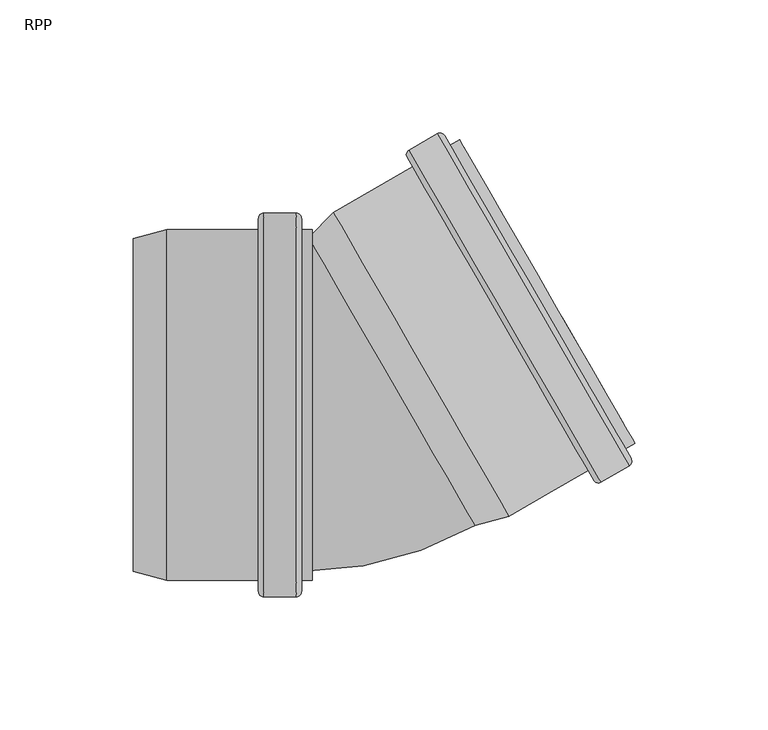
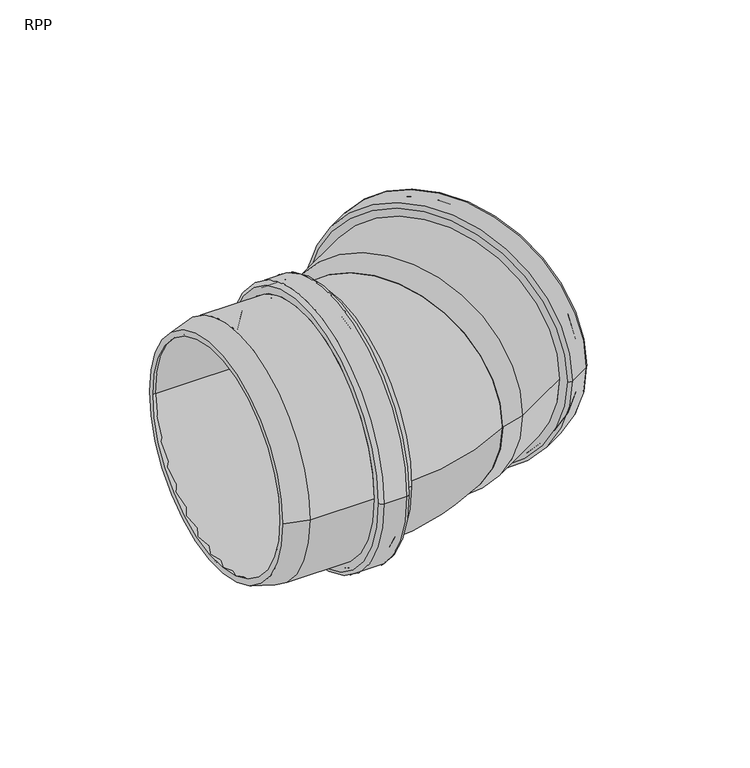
"""IFC4 building model written with IfcOpenShell, lengths in millimetres: pipe fitting geometry, RAUPIANO PLUS Bend : RPP."""

from ifc_helpers import new_model, si_unit, point, frame, origin, place, context, project, spatial, polyline, circle_curve, ellipse_curve, trimmed, source, transform, mapped, element, save
from ifc_brep_helpers import plane_surface, cylinder_surface, revolved_surface, advanced_brep


def rpp_f37a2bfc(model_context):
    return source(origin(), model_context, "Body", "AdvancedBrep", [
        advanced_brep(
        [(-31.6186213, -62.8, 0.0), (-31.6186213, 62.8, 0.0), (-68.7215258, 62.8, 0.0), (-68.7215258, -62.8, 0.0), (-31.1186213, -69.0, 0.0), (-31.1186213, 69.0, 0.0), (-31.6186213, 68.5, 0.0), (-31.6186213, -68.5, 0.0), (-22.1186213, -69.0, 0.0), (-22.1186213, 69.0, 0.0), (-21.6186213, -68.5, 0.0), (-21.6186213, 68.5, 0.0), (-14.4186213, -62.8, 0.0), (-14.4186213, 62.8, 0.0), (-21.6186213, 62.8, 0.0), (-21.6186213, -62.8, 0.0), (-18.5186213, -65.9, 0.0), (-18.5186213, 65.9, 0.0), (-14.4186213, 65.9, 0.0), (-14.4186213, -65.9, 0.0), (-20.5186213, -72.1, 0.0), (-20.5186213, 72.1, 0.0), (-18.5186213, 70.1, 0.0), (-18.5186213, -70.1, 0.0), (-32.7186213, -72.1, 0.0), (-32.7186213, 72.1, 0.0), (-34.7186213, -70.1, 0.0), (-34.7186213, 70.1, 0.0), (-69.1296486, -65.9, 0.0), (-69.1296486, 65.9, 0.0), (-34.7186213, 65.9, 0.0), (-34.7186213, -65.9, 0.0), (-81.8186213, -62.5, 0.0), (-81.8186213, 62.5, 0.0), (-81.8186213, 59.2906438, 0.0), (-81.8186213, -59.2906438, 0.0)],
        [
            (0, 1, circle_curve(frame((-31.6186213, 0.0, 0.0), z_axis=(1.0, 0.0, 0.0), x_axis=(0.0, 1.0, 0.0)), 62.8)),
            (1, 2),
            (2, 3, circle_curve(frame((-68.7215258, 0.0, 0.0), z_axis=(-1.0, 0.0, 0.0), x_axis=(0.0, 1.0, 0.0)), 62.8)),
            (3, 0),
            (4, 5, circle_curve(frame((-31.1186213, 0.0, 0.0), z_axis=(1.0, 0.0, 0.0), x_axis=(0.0, 1.0, 0.0)), 69.0)),
            (5, 6, circle_curve(frame((-31.1186213, 68.5, 0.0), z_axis=(0.0, 0.0, 1.0), x_axis=(0.0, -1.0, 0.0)), 0.5)),
            (6, 7, circle_curve(frame((-31.6186213, 0.0, 0.0), z_axis=(-1.0, 0.0, 0.0), x_axis=(0.0, 1.0, 0.0)), 68.5)),
            (7, 4, circle_curve(frame((-31.1186213, -68.5, 0.0), z_axis=(0.0, 0.0, 1.0), x_axis=(0.0, 1.0, 0.0)), 0.5)),
            (8, 9, circle_curve(frame((-22.1186213, 0.0, 0.0), z_axis=(1.0, 0.0, 0.0), x_axis=(0.0, 1.0, 0.0)), 69.0)),
            (9, 5),
            (4, 8),
            (10, 11, circle_curve(frame((-21.6186213, 0.0, 0.0), z_axis=(1.0, 0.0, 0.0), x_axis=(0.0, 1.0, 0.0)), 68.5)),
            (11, 9, circle_curve(frame((-22.1186213, 68.5, 0.0), z_axis=(0.0, 0.0, 1.0), x_axis=(0.0, -1.0, 0.0)), 0.5)),
            (8, 10, circle_curve(frame((-22.1186213, -68.5, 0.0), z_axis=(0.0, 0.0, 1.0), x_axis=(0.0, 1.0, 0.0)), 0.5)),
            (12, 13, circle_curve(frame((-14.4186213, 0.0, 0.0), z_axis=(1.0, 0.0, 0.0), x_axis=(0.0, 1.0, 0.0)), 62.8)),
            (13, 14),
            (14, 15, circle_curve(frame((-21.6186213, 0.0, 0.0), z_axis=(-1.0, 0.0, 0.0), x_axis=(0.0, 1.0, 0.0)), 62.8)),
            (15, 12),
            (16, 17, circle_curve(frame((-18.5186213, 0.0, 0.0), z_axis=(1.0, 0.0, 0.0), x_axis=(0.0, 1.0, 0.0)), 65.9)),
            (17, 18),
            (18, 19, circle_curve(frame((-14.4186213, 0.0, 0.0), z_axis=(-1.0, 0.0, 0.0), x_axis=(0.0, 1.0, 0.0)), 65.9)),
            (19, 16),
            (20, 21, circle_curve(frame((-20.5186213, 0.0, 0.0), z_axis=(1.0, 0.0, 0.0), x_axis=(0.0, 1.0, 0.0)), 72.1)),
            (21, 22, circle_curve(frame((-20.5186213, 70.1, 0.0), z_axis=(0.0, 0.0, -1.0), x_axis=(0.0, -1.0, 0.0)), 2.0)),
            (22, 23, circle_curve(frame((-18.5186213, 0.0, 0.0), z_axis=(-1.0, 0.0, 0.0), x_axis=(0.0, 1.0, 0.0)), 70.1)),
            (23, 20, circle_curve(frame((-20.5186213, -70.1, 0.0), z_axis=(0.0, 0.0, -1.0), x_axis=(0.0, 1.0, 0.0)), 2.0)),
            (24, 25, circle_curve(frame((-32.7186213, 0.0, 0.0), z_axis=(1.0, 0.0, 0.0), x_axis=(0.0, 1.0, 0.0)), 72.1)),
            (25, 21),
            (20, 24),
            (26, 27, circle_curve(frame((-34.7186213, 0.0, 0.0), z_axis=(1.0, 0.0, 0.0), x_axis=(0.0, 1.0, 0.0)), 70.1)),
            (27, 25, circle_curve(frame((-32.7186213, 70.1, 0.0), z_axis=(0.0, 0.0, -1.0), x_axis=(0.0, -1.0, 0.0)), 2.0)),
            (24, 26, circle_curve(frame((-32.7186213, -70.1, 0.0), z_axis=(0.0, 0.0, -1.0), x_axis=(0.0, 1.0, 0.0)), 2.0)),
            (28, 29, circle_curve(frame((-69.1296486, 0.0, 0.0), z_axis=(1.0, 0.0, 0.0), x_axis=(0.0, 1.0, 0.0)), 65.9)),
            (29, 30),
            (30, 31, circle_curve(frame((-34.7186213, 0.0, 0.0), z_axis=(-1.0, 0.0, 0.0), x_axis=(0.0, 1.0, 0.0)), 65.9)),
            (31, 28),
            (32, 33, circle_curve(frame((-81.8186213, 0.0, 0.0), z_axis=(1.0, 0.0, 0.0), x_axis=(0.0, 1.0, 0.0)), 62.5)),
            (33, 29),
            (28, 32),
            (2, 34),
            (34, 35, circle_curve(frame((-81.8186213, 0.0, 0.0), z_axis=(-1.0, 0.0, 0.0), x_axis=(0.0, 1.0, 0.0)), 59.2906438)),
            (35, 3),
            (1, 0, circle_curve(frame((-31.6186213, 0.0, 0.0), z_axis=(1.0, 0.0, 0.0), x_axis=(0.0, -1.0, 0.0)), 62.8)),
            (3, 2, circle_curve(frame((-68.7215258, 0.0, 0.0), z_axis=(-1.0, 0.0, 0.0), x_axis=(0.0, -1.0, 0.0)), 62.8)),
            (6, 7, circle_curve(frame((-31.6186213, 0.0, 0.0), z_axis=(1.0, 0.0, 0.0), x_axis=(0.0, -1.0, 0.0)), 68.5)),
            (5, 4, circle_curve(frame((-31.1186213, 0.0, 0.0), z_axis=(1.0, 0.0, 0.0), x_axis=(0.0, -1.0, 0.0)), 69.0)),
            (9, 8, circle_curve(frame((-22.1186213, 0.0, 0.0), z_axis=(1.0, 0.0, 0.0), x_axis=(0.0, -1.0, 0.0)), 69.0)),
            (11, 10, circle_curve(frame((-21.6186213, 0.0, 0.0), z_axis=(1.0, 0.0, 0.0), x_axis=(0.0, -1.0, 0.0)), 68.5)),
            (14, 15, circle_curve(frame((-21.6186213, 0.0, 0.0), z_axis=(1.0, 0.0, 0.0), x_axis=(0.0, -1.0, 0.0)), 62.8)),
            (13, 12, circle_curve(frame((-14.4186213, 0.0, 0.0), z_axis=(1.0, 0.0, 0.0), x_axis=(0.0, -1.0, 0.0)), 62.8)),
            (18, 19, circle_curve(frame((-14.4186213, 0.0, 0.0), z_axis=(1.0, 0.0, 0.0), x_axis=(0.0, -1.0, 0.0)), 65.9)),
            (17, 16, circle_curve(frame((-18.5186213, 0.0, 0.0), z_axis=(1.0, 0.0, 0.0), x_axis=(0.0, -1.0, 0.0)), 65.9)),
            (22, 23, circle_curve(frame((-18.5186213, 0.0, 0.0), z_axis=(1.0, 0.0, 0.0), x_axis=(0.0, -1.0, 0.0)), 70.1)),
            (21, 20, circle_curve(frame((-20.5186213, 0.0, 0.0), z_axis=(1.0, 0.0, 0.0), x_axis=(0.0, -1.0, 0.0)), 72.1)),
            (25, 24, circle_curve(frame((-32.7186213, 0.0, 0.0), z_axis=(1.0, 0.0, 0.0), x_axis=(0.0, -1.0, 0.0)), 72.1)),
            (27, 26, circle_curve(frame((-34.7186213, 0.0, 0.0), z_axis=(1.0, 0.0, 0.0), x_axis=(0.0, -1.0, 0.0)), 70.1)),
            (30, 31, circle_curve(frame((-34.7186213, 0.0, 0.0), z_axis=(1.0, 0.0, 0.0), x_axis=(0.0, -1.0, 0.0)), 65.9)),
            (29, 28, circle_curve(frame((-69.1296486, 0.0, 0.0), z_axis=(1.0, 0.0, 0.0), x_axis=(0.0, -1.0, 0.0)), 65.9)),
            (33, 32, circle_curve(frame((-81.8186213, 0.0, 0.0), z_axis=(1.0, 0.0, 0.0), x_axis=(0.0, -1.0, 0.0)), 62.5)),
            (34, 35, circle_curve(frame((-81.8186213, 0.0, 0.0), z_axis=(1.0, 0.0, 0.0), x_axis=(0.0, -1.0, 0.0)), 59.2906438)),
        ],
        [
            revolved_surface(polyline([(-68.7215258, 62.8, 0.0), (-31.6186213, 62.8, 0.0)]), (-81.8186213, 0.0, 0.0), (-1.0, 0.0, 0.0)),
            revolved_surface(trimmed(ellipse_curve(frame((-31.1186213, 68.5, 0.0), z_axis=(0.0, 0.0, -1.0), x_axis=(0.0, -1.0, 0.0)), 0.5, 0.5), [point((-31.6186213, 68.5, 0.0))], [point((-31.1186213, 69.0, 0.0))], True, "CARTESIAN"), (-81.8186213, 0.0, 0.0), (-1.0, 0.0, 0.0)),
            revolved_surface(polyline([(-31.1186213, 69.0, 0.0), (-22.1186213, 69.0, 0.0)]), (-81.8186213, 0.0, 0.0), (-1.0, 0.0, 0.0)),
            revolved_surface(trimmed(ellipse_curve(frame((-22.1186213, 68.5, 0.0), z_axis=(0.0, 0.0, -1.0), x_axis=(0.0, -1.0, 0.0)), 0.5, 0.5), [point((-22.1186213, 69.0, 0.0))], [point((-21.6186213, 68.5, 0.0))], True, "CARTESIAN"), (-81.8186213, 0.0, 0.0), (-1.0, 0.0, 0.0)),
            revolved_surface(polyline([(-21.6186213, 62.8, 0.0), (-14.418621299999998, 62.8, 0.0)]), (-81.8186213, 0.0, 0.0), (-1.0, 0.0, 0.0)),
            cylinder_surface(frame((-81.8186213, 0.0, 0.0), z_axis=(-1.0, 0.0, 0.0), x_axis=(0.0, 1.0, 0.0)), 65.9),
            revolved_surface(trimmed(ellipse_curve(frame((-20.5186213, 70.1, 0.0), z_axis=(0.0, 0.0, 1.0), x_axis=(0.0, -1.0, 0.0)), 2.0, 2.0), [point((-18.5186213, 70.1, 0.0))], [point((-20.5186213, 72.1, 0.0))], True, "CARTESIAN"), (-81.8186213, 0.0, 0.0), (-1.0, 0.0, 0.0)),
            cylinder_surface(frame((-81.8186213, 0.0, 0.0), z_axis=(-1.0, 0.0, 0.0), x_axis=(0.0, 1.0, 0.0)), 72.1),
            revolved_surface(trimmed(ellipse_curve(frame((-32.7186213, 70.1, 0.0), z_axis=(0.0, 0.0, 1.0), x_axis=(0.0, -1.0, 0.0)), 2.0, 2.0), [point((-32.7186213, 72.1, 0.0))], [point((-34.7186213, 70.1, 0.0))], True, "CARTESIAN"), (-81.8186213, 0.0, 0.0), (-1.0, 0.0, 0.0)),
            revolved_surface(polyline([(-69.1296486, 65.9, 0.0), (-81.8186213, 62.5, 0.0)]), (-81.8186213, 0.0, 0.0), (-1.0, 0.0, 0.0)),
            revolved_surface(polyline([(-81.8186213, 59.2906438, 0.0), (-68.7215258, 62.8, 0.0)]), (-81.8186213, 0.0, 0.0), (-1.0, 0.0, 0.0)),
            revolved_surface(polyline([(-68.7215258, -62.8, 0.0), (-31.6186213, -62.8, 0.0)]), (-81.8186213, 0.0, 0.0), (-1.0, 0.0, 0.0)),
            plane_surface(frame((-31.6186213, 0.0, 0.0), z_axis=(1.0, 0.0, 0.0), x_axis=(0.0, -1.0, 0.0))),
            revolved_surface(trimmed(ellipse_curve(frame((-31.1186213, -68.5, 0.0), z_axis=(0.0, 0.0, 1.0), x_axis=(0.0, 1.0, 0.0)), 0.5, 0.5), [point((-31.6186213, -68.5, 0.0))], [point((-31.1186213, -69.0, 0.0))], True, "CARTESIAN"), (-81.8186213, 0.0, 0.0), (-1.0, 0.0, 0.0)),
            revolved_surface(polyline([(-31.1186213, -69.0, 0.0), (-22.1186213, -69.0, 0.0)]), (-81.8186213, 0.0, 0.0), (-1.0, 0.0, 0.0)),
            revolved_surface(trimmed(ellipse_curve(frame((-22.1186213, -68.5, 0.0), z_axis=(0.0, 0.0, 1.0), x_axis=(0.0, 1.0, 0.0)), 0.5, 0.5), [point((-22.1186213, -69.0, 0.0))], [point((-21.6186213, -68.5, 0.0))], True, "CARTESIAN"), (-81.8186213, 0.0, 0.0), (-1.0, 0.0, 0.0)),
            plane_surface(frame((-21.6186213, 0.0, 0.0), z_axis=(-1.0, 0.0, 0.0), x_axis=(0.0, -1.0, 0.0))),
            revolved_surface(polyline([(-21.6186213, -62.8, 0.0), (-14.418621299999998, -62.8, 0.0)]), (-81.8186213, 0.0, 0.0), (-1.0, 0.0, 0.0)),
            plane_surface(frame((-14.4186213, 0.0, 0.0), z_axis=(1.0, 0.0, 0.0), x_axis=(0.0, -1.0, 0.0))),
            cylinder_surface(frame((-81.8186213, 0.0, 0.0), z_axis=(-1.0, 0.0, 0.0), x_axis=(0.0, -1.0, 0.0)), 65.9),
            plane_surface(frame((-18.5186213, 0.0, 0.0), z_axis=(1.0, 0.0, 0.0), x_axis=(0.0, -1.0, 0.0))),
            revolved_surface(trimmed(ellipse_curve(frame((-20.5186213, -70.1, 0.0), z_axis=(0.0, 0.0, -1.0), x_axis=(0.0, 1.0, 0.0)), 2.0, 2.0), [point((-18.5186213, -70.1, 0.0))], [point((-20.5186213, -72.1, 0.0))], True, "CARTESIAN"), (-81.8186213, 0.0, 0.0), (-1.0, 0.0, 0.0)),
            cylinder_surface(frame((-81.8186213, 0.0, 0.0), z_axis=(-1.0, 0.0, 0.0), x_axis=(0.0, -1.0, 0.0)), 72.1),
            revolved_surface(trimmed(ellipse_curve(frame((-32.7186213, -70.1, 0.0), z_axis=(0.0, 0.0, -1.0), x_axis=(0.0, 1.0, 0.0)), 2.0, 2.0), [point((-32.7186213, -72.1, 0.0))], [point((-34.7186213, -70.1, 0.0))], True, "CARTESIAN"), (-81.8186213, 0.0, 0.0), (-1.0, 0.0, 0.0)),
            plane_surface(frame((-34.7186213, 0.0, 0.0), z_axis=(-1.0, 0.0, 0.0), x_axis=(0.0, -1.0, 0.0))),
            revolved_surface(polyline([(-69.1296486, -65.9, 0.0), (-81.8186213, -62.5, 0.0)]), (-81.8186213, 0.0, 0.0), (-1.0, 0.0, 0.0)),
            plane_surface(frame((-81.8186213, 0.0, 0.0), z_axis=(-1.0, 0.0, 0.0), x_axis=(0.0, -1.0, 0.0))),
            revolved_surface(polyline([(-81.8186213, -59.2906438, 0.0), (-68.7215258, -62.8, 0.0)]), (-81.8186213, 0.0, 0.0), (-1.0, 0.0, 0.0)),
        ],
        [
            (0, [[1, 2, 3, 4]]),
            (1, [[5, 6, 7, 8]]),
            (2, [[9, 10, -5, 11]]),
            (3, [[12, 13, -9, 14]]),
            (4, [[15, 16, 17, 18]]),
            (5, [[19, 20, 21, 22]]),
            (6, [[23, 24, 25, 26]]),
            (7, [[27, 28, -23, 29]]),
            (8, [[30, 31, -27, 32]]),
            (5, [[33, 34, 35, 36]]),
            (9, [[37, 38, -33, 39]]),
            (10, [[-3, 40, 41, 42]]),
            (11, [[43, -4, 44, -2]]),
            (12, [[45, -7], [-43, -1]]),
            (13, [[46, -8, -45, -6]]),
            (14, [[47, -11, -46, -10]]),
            (15, [[48, -14, -47, -13]]),
            (16, [[-48, -12], [49, -17]]),
            (17, [[50, -18, -49, -16]]),
            (18, [[51, -21], [-50, -15]]),
            (19, [[52, -22, -51, -20]]),
            (20, [[53, -25], [-52, -19]]),
            (21, [[54, -26, -53, -24]]),
            (22, [[55, -29, -54, -28]]),
            (23, [[56, -32, -55, -31]]),
            (24, [[-56, -30], [57, -35]]),
            (19, [[58, -36, -57, -34]]),
            (25, [[59, -39, -58, -38]]),
            (26, [[-59, -37], [60, -41]]),
            (27, [[-44, -42, -60, -40]]),
        ],
    ),
        advanced_brep(
        [(45.0767006, -42.4378931, 0.0), (-14.2139432, 60.2565144, 0.0), (-4.6262039, 69.8442538, 0.0), (58.1737961, -38.928537, 0.0), (59.3703514, -41.8172771, 0.0), (-6.5296486, 72.3248711, 0.0), (-15.8186213, 63.0358984, 0.0), (46.6813787, -45.2172771, 0.0), (89.1711752, -24.6117635, 0.0), (23.2711752, 89.5303848, 0.0), (104.568736, -22.881121, 0.0), (32.468736, 101.9997423, 0.0), (21.903226, 95.8997423, 0.0), (94.003226, -28.981121, 0.0), (106.7514909, -14.4617635, 0.0), (40.8514909, 99.6803848, 0.0), (37.3007868, 97.6303848, 0.0), (103.2007868, -16.5117635, 0.0), (98.966108, -15.3770847, 0.0), (36.166108, 93.395706, 0.0), (42.4014909, 96.995706, 0.0), (105.2014909, -11.7770847, 0.0), (93.8388667, -25.4964422, 0.0), (24.8388667, 94.0150635, 0.0), (32.6330953, 98.5150635, 0.0), (101.6330953, -20.9964422, 0.0), (27.505854, 88.395706, 0.0), (90.305854, -20.3770847, 0.0), (21.1711752, 93.1676915, 0.0), (91.2711752, -28.2490702, 0.0), (105.3007868, -20.1490702, 0.0), (35.2007868, 101.2676915, 0.0), (33.316108, 98.3320508, 0.0), (101.816108, -20.3134295, 0.0), (93.155854, -25.3134295, 0.0), (24.655854, 93.3320508, 0.0)],
        [
            (0, 1, circle_curve(frame((15.4313787, 8.9093106, 0.0), z_axis=(-0.8660254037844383, -0.5000000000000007, 0.0), x_axis=(-0.5000000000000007, 0.8660254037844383, 0.0)), 59.2906438)),
            (1, 2),
            (2, 3, circle_curve(frame((26.7737961, 15.4578584, 0.0), z_axis=(0.8660254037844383, 0.5000000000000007, 0.0), x_axis=(-0.5000000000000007, 0.8660254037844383, 0.0)), 62.8)),
            (3, 0),
            (4, 5, circle_curve(frame((26.4203514, 15.253797, 0.0), z_axis=(-0.8660254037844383, -0.5000000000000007, 0.0), x_axis=(-0.5000000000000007, 0.8660254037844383, 0.0)), 65.9)),
            (5, 6),
            (6, 7, circle_curve(frame((15.4313787, 8.9093106, 0.0), z_axis=(0.8660254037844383, 0.5000000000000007, 0.0), x_axis=(-0.5000000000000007, 0.8660254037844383, 0.0)), 62.5)),
            (7, 4),
            (8, 9, circle_curve(frame((56.2211752, 32.4593106, 0.0), z_axis=(-0.8660254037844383, -0.5000000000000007, 0.0), x_axis=(-0.5000000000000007, 0.8660254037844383, 0.0)), 65.9)),
            (9, 5),
            (4, 8),
            (10, 11, circle_curve(frame((68.518736, 39.5593106, 0.0), z_axis=(-0.8660254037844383, -0.5000000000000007, 0.0), x_axis=(-0.5000000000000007, 0.8660254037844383, 0.0)), 72.1)),
            (11, 12),
            (12, 13, circle_curve(frame((57.953226, 33.4593106, 0.0), z_axis=(0.8660254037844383, 0.5000000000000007, 0.0), x_axis=(-0.5000000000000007, 0.8660254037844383, 0.0)), 72.1)),
            (13, 10),
            (14, 15, circle_curve(frame((73.8014909, 42.6093106, 0.0), z_axis=(-0.8660254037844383, -0.5000000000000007, 0.0), x_axis=(-0.5000000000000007, 0.8660254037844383, 0.0)), 65.9)),
            (15, 16),
            (16, 17, circle_curve(frame((70.2507868, 40.5593106, 0.0), z_axis=(0.8660254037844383, 0.5000000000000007, 0.0), x_axis=(-0.5000000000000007, 0.8660254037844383, 0.0)), 65.9)),
            (17, 14),
            (18, 19, circle_curve(frame((67.566108, 39.0093106, 0.0), z_axis=(-0.8660254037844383, -0.5000000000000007, 0.0), x_axis=(-0.5000000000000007, 0.8660254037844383, 0.0)), 62.8)),
            (19, 20),
            (20, 21, circle_curve(frame((73.8014909, 42.6093106, 0.0), z_axis=(0.8660254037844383, 0.5000000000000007, 0.0), x_axis=(-0.5000000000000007, 0.8660254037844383, 0.0)), 62.8)),
            (21, 18),
            (22, 23, circle_curve(frame((59.3388667, 34.2593106, 0.0), z_axis=(-0.8660254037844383, -0.5000000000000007, 0.0), x_axis=(-0.5000000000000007, 0.8660254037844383, 0.0)), 69.0)),
            (23, 24),
            (24, 25, circle_curve(frame((67.1330953, 38.7593106, 0.0), z_axis=(0.8660254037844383, 0.5000000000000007, 0.0), x_axis=(-0.5000000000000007, 0.8660254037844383, 0.0)), 69.0)),
            (25, 22),
            (2, 26),
            (26, 27, circle_curve(frame((58.905854, 34.0093106, 0.0), z_axis=(0.8660254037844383, 0.5000000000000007, 0.0), x_axis=(-0.5000000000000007, 0.8660254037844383, 0.0)), 62.8)),
            (27, 3),
            (1, 0, circle_curve(frame((15.4313787, 8.9093106, 0.0), z_axis=(-0.8660254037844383, -0.5000000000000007, 0.0), x_axis=(0.5000000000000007, -0.8660254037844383, 0.0)), 59.2906438)),
            (3, 2, circle_curve(frame((26.7737961, 15.4578584, 0.0), z_axis=(0.8660254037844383, 0.5000000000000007, 0.0), x_axis=(0.5000000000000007, -0.8660254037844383, 0.0)), 62.8)),
            (6, 7, circle_curve(frame((15.4313787, 8.9093106, 0.0), z_axis=(-0.8660254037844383, -0.5000000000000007, 0.0), x_axis=(0.5000000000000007, -0.8660254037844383, 0.0)), 62.5)),
            (5, 4, circle_curve(frame((26.4203514, 15.253797, 0.0), z_axis=(-0.8660254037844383, -0.5000000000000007, 0.0), x_axis=(0.5000000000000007, -0.8660254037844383, 0.0)), 65.9)),
            (9, 8, circle_curve(frame((56.2211752, 32.4593106, 0.0), z_axis=(-0.8660254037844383, -0.5000000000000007, 0.0), x_axis=(0.5000000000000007, -0.8660254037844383, 0.0)), 65.9)),
            (28, 29, circle_curve(frame((56.2211752, 32.4593106, 0.0), z_axis=(-0.8660254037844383, -0.5000000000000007, 0.0), x_axis=(0.5000000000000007, -0.8660254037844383, 0.0)), 70.1)),
            (29, 28, circle_curve(frame((56.2211752, 32.4593106, 0.0), z_axis=(-0.8660254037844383, -0.5000000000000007, 0.0), x_axis=(-0.5000000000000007, 0.8660254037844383, 0.0)), 70.1)),
            (11, 10, circle_curve(frame((68.518736, 39.5593106, 0.0), z_axis=(-0.8660254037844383, -0.5000000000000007, 0.0), x_axis=(0.5000000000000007, -0.8660254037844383, 0.0)), 72.1)),
            (13, 12, circle_curve(frame((57.953226, 33.4593106, 0.0), z_axis=(0.8660254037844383, 0.5000000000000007, 0.0), x_axis=(0.5000000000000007, -0.8660254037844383, 0.0)), 72.1)),
            (30, 31, circle_curve(frame((70.2507868, 40.5593106, 0.0), z_axis=(0.8660254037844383, 0.5000000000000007, 0.0), x_axis=(0.5000000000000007, -0.8660254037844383, 0.0)), 70.1)),
            (31, 30, circle_curve(frame((70.2507868, 40.5593106, 0.0), z_axis=(0.8660254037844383, 0.5000000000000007, 0.0), x_axis=(-0.5000000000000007, 0.8660254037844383, 0.0)), 70.1)),
            (16, 17, circle_curve(frame((70.2507868, 40.5593106, 0.0), z_axis=(-0.8660254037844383, -0.5000000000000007, 0.0), x_axis=(0.5000000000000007, -0.8660254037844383, 0.0)), 65.9)),
            (15, 14, circle_curve(frame((73.8014909, 42.6093106, 0.0), z_axis=(-0.8660254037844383, -0.5000000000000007, 0.0), x_axis=(0.5000000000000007, -0.8660254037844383, 0.0)), 65.9)),
            (20, 21, circle_curve(frame((73.8014909, 42.6093106, 0.0), z_axis=(-0.8660254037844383, -0.5000000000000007, 0.0), x_axis=(0.5000000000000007, -0.8660254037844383, 0.0)), 62.8)),
            (19, 18, circle_curve(frame((67.566108, 39.0093106, 0.0), z_axis=(-0.8660254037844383, -0.5000000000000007, 0.0), x_axis=(0.5000000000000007, -0.8660254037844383, 0.0)), 62.8)),
            (32, 33, circle_curve(frame((67.566108, 39.0093106, 0.0), z_axis=(-0.8660254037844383, -0.5000000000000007, 0.0), x_axis=(0.5000000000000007, -0.8660254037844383, 0.0)), 68.5)),
            (33, 32, circle_curve(frame((67.566108, 39.0093106, 0.0), z_axis=(-0.8660254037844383, -0.5000000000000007, 0.0), x_axis=(-0.5000000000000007, 0.8660254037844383, 0.0)), 68.5)),
            (23, 22, circle_curve(frame((59.3388667, 34.2593106, 0.0), z_axis=(-0.8660254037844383, -0.5000000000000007, 0.0), x_axis=(0.5000000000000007, -0.8660254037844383, 0.0)), 69.0)),
            (25, 24, circle_curve(frame((67.1330953, 38.7593106, 0.0), z_axis=(0.8660254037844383, 0.5000000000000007, 0.0), x_axis=(0.5000000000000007, -0.8660254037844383, 0.0)), 69.0)),
            (34, 35, circle_curve(frame((58.905854, 34.0093106, 0.0), z_axis=(0.8660254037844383, 0.5000000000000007, 0.0), x_axis=(0.5000000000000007, -0.8660254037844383, 0.0)), 68.5)),
            (35, 34, circle_curve(frame((58.905854, 34.0093106, 0.0), z_axis=(0.8660254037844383, 0.5000000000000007, 0.0), x_axis=(-0.5000000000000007, 0.8660254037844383, 0.0)), 68.5)),
            (26, 27, circle_curve(frame((58.905854, 34.0093106, 0.0), z_axis=(-0.8660254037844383, -0.5000000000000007, 0.0), x_axis=(0.5000000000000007, -0.8660254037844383, 0.0)), 62.8)),
            (12, 28, circle_curve(frame((22.903226, 94.1676915, 0.0), z_axis=(0.0, 0.0, 1.0), x_axis=(0.5000000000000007, -0.8660254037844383, 0.0)), 2.0)),
            (29, 13, circle_curve(frame((93.003226, -27.2490702, 0.0), z_axis=(0.0, 0.0, 1.0), x_axis=(-0.5000000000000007, 0.8660254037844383, 0.0)), 2.0)),
            (31, 11, circle_curve(frame((33.468736, 100.2676915, 0.0), z_axis=(0.0, 0.0, 1.0), x_axis=(0.5000000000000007, -0.8660254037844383, 0.0)), 2.0)),
            (10, 30, circle_curve(frame((103.568736, -21.1490702, 0.0), z_axis=(0.0, 0.0, 1.0), x_axis=(-0.5000000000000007, 0.8660254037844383, 0.0)), 2.0)),
            (24, 32, circle_curve(frame((32.8830953, 98.0820508, 0.0), z_axis=(0.0, 0.0, -1.0), x_axis=(0.5000000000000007, -0.8660254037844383, 0.0)), 0.5)),
            (33, 25, circle_curve(frame((101.3830953, -20.5634295, 0.0), z_axis=(0.0, 0.0, -1.0), x_axis=(-0.5000000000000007, 0.8660254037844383, 0.0)), 0.5)),
            (35, 23, circle_curve(frame((25.0888667, 93.5820508, 0.0), z_axis=(0.0, 0.0, -1.0), x_axis=(0.5000000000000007, -0.8660254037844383, 0.0)), 0.5)),
            (22, 34, circle_curve(frame((93.5888667, -25.0634295, 0.0), z_axis=(0.0, 0.0, -1.0), x_axis=(-0.5000000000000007, 0.8660254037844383, 0.0)), 0.5)),
        ],
        [
            revolved_surface(polyline([(-4.6262039, 69.8442538, 0.0), (-14.2139432, 60.2565144, 0.0)]), (15.4313787, 8.9093106, 0.0), (0.8660254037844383, 0.5000000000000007, 0.0)),
            revolved_surface(polyline([(-15.8186213, 63.0358984, 0.0), (-6.5296486, 72.3248711, 0.0)]), (15.4313787, 8.9093106, 0.0), (0.8660254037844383, 0.5000000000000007, 0.0)),
            cylinder_surface(frame((15.4313787, 8.9093106, 0.0), z_axis=(0.8660254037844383, 0.5000000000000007, 0.0), x_axis=(-0.5000000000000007, 0.8660254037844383, 0.0)), 65.9),
            cylinder_surface(frame((15.4313787, 8.9093106, 0.0), z_axis=(0.8660254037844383, 0.5000000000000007, 0.0), x_axis=(-0.5000000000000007, 0.8660254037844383, 0.0)), 72.1),
            revolved_surface(polyline([(42.40149092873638, 96.99570596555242, 0.0), (36.166108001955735, 93.39570595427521, 0.0)]), (15.4313787, 8.9093106, 0.0), (0.8660254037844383, 0.5000000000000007, 0.0)),
            revolved_surface(polyline([(32.63309532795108, 98.51506347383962, 0.0), (24.838866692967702, 94.01506347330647, 0.0)]), (15.4313787, 8.9093106, 0.0), (0.8660254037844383, 0.5000000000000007, 0.0)),
            revolved_surface(polyline([(27.505854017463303, 88.39570598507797, 0.0), (-4.626203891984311, 69.84425370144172, 0.0)]), (15.4313787, 8.9093106, 0.0), (0.8660254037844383, 0.5000000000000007, 0.0)),
            revolved_surface(polyline([(58.1737961, -38.928537, 0.0), (45.0767006, -42.4378931, 0.0)]), (15.4313787, 8.9093106, 0.0), (0.8660254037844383, 0.5000000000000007, 0.0)),
            plane_surface(frame((15.4313787, 8.9093106, 0.0), z_axis=(-0.8660254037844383, -0.5000000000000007, 0.0), x_axis=(0.5000000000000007, -0.8660254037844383, 0.0))),
            revolved_surface(polyline([(46.6813787, -45.2172771, 0.0), (59.3703514, -41.8172771, 0.0)]), (15.4313787, 8.9093106, 0.0), (0.8660254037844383, 0.5000000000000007, 0.0)),
            cylinder_surface(frame((15.4313787, 8.9093106, 0.0), z_axis=(0.8660254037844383, 0.5000000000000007, 0.0), x_axis=(0.5000000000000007, -0.8660254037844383, 0.0)), 65.9),
            plane_surface(frame((56.2211752, 32.4593106, 0.0), z_axis=(-0.8660254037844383, -0.5000000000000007, 0.0), x_axis=(0.5000000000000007, -0.8660254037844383, 0.0))),
            cylinder_surface(frame((15.4313787, 8.9093106, 0.0), z_axis=(0.8660254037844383, 0.5000000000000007, 0.0), x_axis=(0.5000000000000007, -0.8660254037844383, 0.0)), 72.1),
            plane_surface(frame((70.2507868, 40.5593106, 0.0), z_axis=(0.8660254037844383, 0.5000000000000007, 0.0), x_axis=(0.5000000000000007, -0.8660254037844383, 0.0))),
            plane_surface(frame((73.8014909, 42.6093106, 0.0), z_axis=(0.8660254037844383, 0.5000000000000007, 0.0), x_axis=(0.5000000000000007, -0.8660254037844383, 0.0))),
            revolved_surface(polyline([(105.20149092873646, -11.777084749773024, 0.0), (98.96610800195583, -15.37708476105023, 0.0)]), (15.4313787, 8.9093106, 0.0), (0.8660254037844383, 0.5000000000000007, 0.0)),
            plane_surface(frame((67.566108, 39.0093106, 0.0), z_axis=(-0.8660254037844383, -0.5000000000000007, 0.0), x_axis=(0.5000000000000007, -0.8660254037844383, 0.0))),
            revolved_surface(polyline([(101.63309532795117, -20.99644224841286, 0.0), (93.83886669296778, -25.496442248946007, 0.0)]), (15.4313787, 8.9093106, 0.0), (0.8660254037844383, 0.5000000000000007, 0.0)),
            plane_surface(frame((58.905854, 34.0093106, 0.0), z_axis=(0.8660254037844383, 0.5000000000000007, 0.0), x_axis=(0.5000000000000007, -0.8660254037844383, 0.0))),
            revolved_surface(polyline([(90.30585401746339, -20.37708473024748, 0.0), (58.17379610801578, -38.928537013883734, 0.0)]), (15.4313787, 8.9093106, 0.0), (0.8660254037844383, 0.5000000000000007, 0.0)),
            revolved_surface(trimmed(ellipse_curve(frame((22.903226, 94.1676915, 0.0), z_axis=(0.0, 0.0, -1.0), x_axis=(0.5000000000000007, -0.8660254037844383, 0.0)), 2.0, 2.0), [point((21.1711752, 93.1676915, 0.0))], [point((21.903226, 95.8997423, 0.0))], True, "CARTESIAN"), (15.4313787, 8.9093106, 0.0), (0.8660254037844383, 0.5000000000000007, 0.0)),
            revolved_surface(trimmed(ellipse_curve(frame((33.468736, 100.2676915, 0.0), z_axis=(0.0, 0.0, -1.0), x_axis=(0.5000000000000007, -0.8660254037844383, 0.0)), 2.0, 2.0), [point((32.468736, 101.9997423, 0.0))], [point((35.2007868, 101.2676915, 0.0))], True, "CARTESIAN"), (15.4313787, 8.9093106, 0.0), (0.8660254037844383, 0.5000000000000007, 0.0)),
            revolved_surface(trimmed(ellipse_curve(frame((32.8830953, 98.0820508, 0.0), z_axis=(0.0, 0.0, 1.0), x_axis=(0.5000000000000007, -0.8660254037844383, 0.0)), 0.5, 0.5), [point((33.316108, 98.3320508, 0.0))], [point((32.6330953, 98.5150635, 0.0))], True, "CARTESIAN"), (15.4313787, 8.9093106, 0.0), (0.8660254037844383, 0.5000000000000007, 0.0)),
            revolved_surface(trimmed(ellipse_curve(frame((25.0888667, 93.5820508, 0.0), z_axis=(0.0, 0.0, 1.0), x_axis=(0.5000000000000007, -0.8660254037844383, 0.0)), 0.5, 0.5), [point((24.8388667, 94.0150635, 0.0))], [point((24.655854, 93.3320508, 0.0))], True, "CARTESIAN"), (15.4313787, 8.9093106, 0.0), (0.8660254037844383, 0.5000000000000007, 0.0)),
            revolved_surface(trimmed(ellipse_curve(frame((93.003226, -27.2490702, 0.0), z_axis=(0.0, 0.0, 1.0), x_axis=(-0.5000000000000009, 0.8660254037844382, 0.0)), 2.0, 2.0), [point((91.2711752, -28.2490702, 0.0))], [point((94.003226, -28.981121, 0.0))], True, "CARTESIAN"), (15.4313787, 8.9093106, 0.0), (0.8660254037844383, 0.5000000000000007, 0.0)),
            revolved_surface(trimmed(ellipse_curve(frame((103.568736, -21.1490702, 0.0), z_axis=(0.0, 0.0, 1.0), x_axis=(-0.5000000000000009, 0.8660254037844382, 0.0)), 2.0, 2.0), [point((104.568736, -22.881121, 0.0))], [point((105.3007868, -20.1490702, 0.0))], True, "CARTESIAN"), (15.4313787, 8.9093106, 0.0), (0.8660254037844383, 0.5000000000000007, 0.0)),
            revolved_surface(trimmed(ellipse_curve(frame((101.3830953, -20.5634295, 0.0), z_axis=(0.0, 0.0, -1.0), x_axis=(-0.5000000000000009, 0.8660254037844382, 0.0)), 0.5, 0.5), [point((101.816108, -20.3134295, 0.0))], [point((101.6330953, -20.9964422, 0.0))], True, "CARTESIAN"), (15.4313787, 8.9093106, 0.0), (0.8660254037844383, 0.5000000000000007, 0.0)),
            revolved_surface(trimmed(ellipse_curve(frame((93.5888667, -25.0634295, 0.0), z_axis=(0.0, 0.0, -1.0), x_axis=(-0.5000000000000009, 0.8660254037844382, 0.0)), 0.5, 0.5), [point((93.8388667, -25.4964422, 0.0))], [point((93.155854, -25.3134295, 0.0))], True, "CARTESIAN"), (15.4313787, 8.9093106, 0.0), (0.8660254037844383, 0.5000000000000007, 0.0)),
        ],
        [
            (0, [[1, 2, 3, 4]]),
            (1, [[5, 6, 7, 8]]),
            (2, [[9, 10, -5, 11]]),
            (3, [[12, 13, 14, 15]]),
            (2, [[16, 17, 18, 19]]),
            (4, [[20, 21, 22, 23]]),
            (5, [[24, 25, 26, 27]]),
            (6, [[-3, 28, 29, 30]]),
            (7, [[31, -4, 32, -2]]),
            (8, [[33, -7], [-31, -1]]),
            (9, [[34, -8, -33, -6]]),
            (10, [[35, -11, -34, -10]]),
            (11, [[36, 37], [-35, -9]]),
            (12, [[38, -15, 39, -13]]),
            (13, [[40, 41], [42, -18]]),
            (10, [[43, -19, -42, -17]]),
            (14, [[-43, -16], [44, -22]]),
            (15, [[45, -23, -44, -21]]),
            (16, [[46, 47], [-45, -20]]),
            (17, [[48, -27, 49, -25]]),
            (18, [[50, 51], [52, -29]]),
            (19, [[-32, -30, -52, -28]]),
            (20, [[-14, 53, -37, 54]]),
            (21, [[-41, 55, -12, 56]]),
            (22, [[-26, 57, -47, 58]]),
            (23, [[-51, 59, -24, 60]]),
            (24, [[-39, -54, -36, -53]]),
            (25, [[-40, -56, -38, -55]]),
            (26, [[-49, -58, -46, -57]]),
            (27, [[-50, -60, -48, -59]]),
        ],
    ),
        advanced_brep(
        [(-17.8186213, 59.4, 0.0), (-17.8186213, -59.4, 0.0), (-81.8186213, -59.4, 0.0), (-81.8186213, 59.4, 0.0), (-73.2349044, 62.5, 0.0), (-73.2349044, -62.5, 0.0), (-17.8186213, -62.5, 0.0), (-17.8186213, 62.5, 0.0), (-81.8186213, 60.2, 0.0), (-81.8186213, -60.2, 0.0)],
        [
            (0, 1, circle_curve(frame((-17.8186213, 0.0, 0.0), z_axis=(1.0, 0.0, 0.0), x_axis=(0.0, -1.0, 0.0)), 59.4)),
            (1, 2),
            (2, 3, circle_curve(frame((-81.8186213, 0.0, 0.0), z_axis=(-1.0, 0.0, 0.0), x_axis=(0.0, -1.0, 0.0)), 59.4)),
            (3, 0),
            (4, 5, circle_curve(frame((-73.2349044, 0.0, 0.0), z_axis=(1.0, 0.0, 0.0), x_axis=(0.0, -1.0, 0.0)), 62.5)),
            (5, 6),
            (6, 7, circle_curve(frame((-17.8186213, 0.0, 0.0), z_axis=(-1.0, 0.0, 0.0), x_axis=(0.0, -1.0, 0.0)), 62.5)),
            (7, 4),
            (8, 9, circle_curve(frame((-81.8186213, 0.0, 0.0), z_axis=(1.0, 0.0, 0.0), x_axis=(0.0, -1.0, 0.0)), 60.2)),
            (9, 5),
            (4, 8),
            (1, 0, circle_curve(frame((-17.8186213, 0.0, 0.0), z_axis=(1.0, 0.0, 0.0), x_axis=(0.0, 1.0, 0.0)), 59.4)),
            (3, 2, circle_curve(frame((-81.8186213, 0.0, 0.0), z_axis=(-1.0, 0.0, 0.0), x_axis=(0.0, 1.0, 0.0)), 59.4)),
            (6, 7, circle_curve(frame((-17.8186213, 0.0, 0.0), z_axis=(1.0, 0.0, 0.0), x_axis=(0.0, 1.0, 0.0)), 62.5)),
            (5, 4, circle_curve(frame((-73.2349044, 0.0, 0.0), z_axis=(1.0, 0.0, 0.0), x_axis=(0.0, 1.0, 0.0)), 62.5)),
            (9, 8, circle_curve(frame((-81.8186213, 0.0, 0.0), z_axis=(1.0, 0.0, 0.0), x_axis=(0.0, 1.0, 0.0)), 60.2)),
        ],
        [
            revolved_surface(polyline([(-81.8186213, -59.4, 0.0), (-17.8186213, -59.4, 0.0)]), (-17.8186213, 0.0, 0.0), (-1.0, 0.0, 0.0)),
            cylinder_surface(frame((-17.8186213, 0.0, 0.0), z_axis=(-1.0, 0.0, 0.0), x_axis=(0.0, -1.0, 0.0)), 62.5),
            revolved_surface(polyline([(-73.2349044, -62.5, 0.0), (-81.8186213, -60.2, 0.0)]), (-17.8186213, 0.0, 0.0), (-1.0, 0.0, 0.0)),
            revolved_surface(polyline([(-81.8186213, 59.4, 0.0), (-17.8186213, 59.4, 0.0)]), (-17.8186213, 0.0, 0.0), (-1.0, 0.0, 0.0)),
            plane_surface(frame((-17.8186213, 0.0, 0.0), z_axis=(1.0, 0.0, 0.0), x_axis=(0.0, 1.0, 0.0))),
            cylinder_surface(frame((-17.8186213, 0.0, 0.0), z_axis=(-1.0, 0.0, 0.0), x_axis=(0.0, 1.0, 0.0)), 62.5),
            revolved_surface(polyline([(-73.2349044, 62.5, 0.0), (-81.8186213, 60.2, 0.0)]), (-17.8186213, 0.0, 0.0), (-1.0, 0.0, 0.0)),
            plane_surface(frame((-81.8186213, 0.0, 0.0), z_axis=(-1.0, 0.0, 0.0), x_axis=(0.0, 1.0, 0.0))),
        ],
        [
            (0, [[1, 2, 3, 4]]),
            (1, [[5, 6, 7, 8]]),
            (2, [[9, 10, -5, 11]]),
            (3, [[12, -4, 13, -2]]),
            (4, [[14, -7], [-12, -1]]),
            (5, [[15, -8, -14, -6]]),
            (6, [[16, -11, -15, -10]]),
            (7, [[-16, -9], [-13, -3]]),
        ],
    ),
        advanced_brep(
        [(-17.8186213, -62.5, 0.0), (-17.8186213, 62.5, 0.0), (-17.8186213, -59.4, 0.0), (-17.8186213, 59.4, 0.0), (46.6813787, -45.2172771, 0.0), (-15.8186213, 63.0358984, 0.0), (45.1313787, -42.5325983, 0.0), (-14.2686213, 60.3512196, 0.0)],
        [
            (0, 1, circle_curve(frame((-17.8186213, 0.0, 0.0), z_axis=(-1.0, 0.0, 0.0), x_axis=(0.0, 1.0, 0.0)), 62.5)),
            (1, 0, circle_curve(frame((-17.8186213, 0.0, 0.0), z_axis=(-1.0, 0.0, 0.0), x_axis=(0.0, 1.0, 0.0)), 62.5)),
            (2, 3, circle_curve(frame((-17.8186213, 0.0, 0.0), z_axis=(1.0, 0.0, 0.0), x_axis=(0.0, 1.0, 0.0)), 59.4)),
            (3, 2, circle_curve(frame((-17.8186213, 0.0, 0.0), z_axis=(1.0, 0.0, 0.0), x_axis=(0.0, 1.0, 0.0)), 59.4)),
            (4, 5, circle_curve(frame((15.4313787, 8.9093106, 0.0), z_axis=(0.8660254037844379, 0.5000000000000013, 0.0), x_axis=(-0.5000000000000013, 0.8660254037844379, 0.0)), 62.5)),
            (5, 4, circle_curve(frame((15.4313787, 8.9093106, 0.0), z_axis=(0.8660254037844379, 0.5000000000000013, 0.0), x_axis=(-0.5000000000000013, 0.8660254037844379, 0.0)), 62.5)),
            (6, 7, circle_curve(frame((15.4313787, 8.9093106, 0.0), z_axis=(-0.8660254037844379, -0.5000000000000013, 0.0), x_axis=(-0.5000000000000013, 0.8660254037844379, 0.0)), 59.4)),
            (7, 6, circle_curve(frame((15.4313787, 8.9093106, 0.0), z_axis=(-0.8660254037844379, -0.5000000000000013, 0.0), x_axis=(-0.5000000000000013, 0.8660254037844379, 0.0)), 59.4)),
            (7, 3, circle_curve(frame((-17.8186213, 66.5, 0.0), z_axis=(0.0, 0.0, -1.0), x_axis=(0.0, -1.0, 0.0)), 7.1)),
            (2, 6, circle_curve(frame((-17.8186213, 66.5, 0.0), z_axis=(0.0, 0.0, 1.0), x_axis=(0.0, -1.0, 0.0)), 125.9)),
            (5, 1, circle_curve(frame((-17.8186213, 66.5, 0.0), z_axis=(0.0, 0.0, -1.0), x_axis=(0.0, -1.0, 0.0)), 4.0)),
            (0, 4, circle_curve(frame((-17.8186213, 66.5, 0.0), z_axis=(0.0, 0.0, 1.0), x_axis=(0.0, -1.0, 0.0)), 129.0)),
        ],
        [
            plane_surface(frame((-17.8186213, 0.0, 0.0), z_axis=(-1.0, 0.0, 0.0), x_axis=(0.0, 0.0, 1.0))),
            plane_surface(frame((15.4313787, 8.9093106, 0.0), z_axis=(0.866025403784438, 0.5000000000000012, 0.0), x_axis=(0.0, 0.0, 1.0))),
            revolved_surface(trimmed(ellipse_curve(frame((-17.8186213, 0.0, 0.0), z_axis=(1.0, 0.0, 0.0), x_axis=(0.0, 1.0, 0.0)), 59.4, 59.4), [point((-17.8186213, -59.4, 0.0))], [point((-17.8186213, 59.4, 0.0))], True, "CARTESIAN"), (-17.8186213, 66.5, 0.0), (0.0, 0.0, 1.0)),
            revolved_surface(trimmed(ellipse_curve(frame((-17.8186213, 0.0, 0.0), z_axis=(1.0, 0.0, 0.0), x_axis=(0.0, 1.0, 0.0)), 59.4, 59.4), [point((-17.8186213, 59.4, 0.0))], [point((-17.8186213, -59.4, 0.0))], True, "CARTESIAN"), (-17.8186213, 66.5, 0.0), (0.0, 0.0, 1.0)),
            revolved_surface(trimmed(ellipse_curve(frame((-17.8186213, 0.0, 0.0), z_axis=(-1.0, 0.0, 0.0), x_axis=(0.0, 1.0, 0.0)), 62.5, 62.5), [point((-17.8186213, -62.5, 0.0))], [point((-17.8186213, 62.5, 0.0))], True, "CARTESIAN"), (-17.8186213, 66.5, 0.0), (0.0, 0.0, 1.0)),
            revolved_surface(trimmed(ellipse_curve(frame((-17.8186213, 0.0, 0.0), z_axis=(-1.0, 0.0, 0.0), x_axis=(0.0, 1.0, 0.0)), 62.5, 62.5), [point((-17.8186213, 62.5, 0.0))], [point((-17.8186213, -62.5, 0.0))], True, "CARTESIAN"), (-17.8186213, 66.5, 0.0), (0.0, 0.0, 1.0)),
        ],
        [
            (0, [[1, 2], [3, 4]]),
            (1, [[5, 6], [7, 8]]),
            (2, [[9, -3, 10, -8]]),
            (3, [[-10, -4, -9, -7]]),
            (4, [[11, -1, 12, -6]]),
            (5, [[-12, -2, -11, -5]]),
        ],
    ),
    ])


if __name__ == "__main__":
    model = new_model("IFC4")
    model_context = context("Model", 3, world=origin())
    ifc_project = project(units=[si_unit("LENGTHUNIT", "METRE", prefix="MILLI")], contexts=[model_context])
    site = spatial("IfcSite", under=ifc_project)
    building = spatial("IfcBuilding", under=site)
    placement = place(None, origin())
    rpp_shape = rpp_f37a2bfc(model_context)
    element("IfcPipeFitting", 1, ObjectType="RAUPIANO PLUS Bend : RPP", at=placement, inside=building, context=model_context, shape_type="MappedRepresentation", body=[
        mapped(rpp_shape, transform((0.0, 0.0, 0.0), x_axis=(1.0, 0.0, 0.0), y_axis=(0.0, 1.0, 0.0), z_axis=(0.0, 0.0, 1.0))),
    ])
    save(model, "model.ifc")
